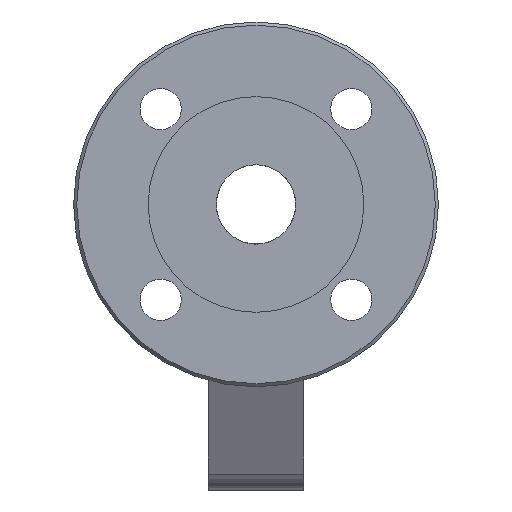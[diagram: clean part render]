
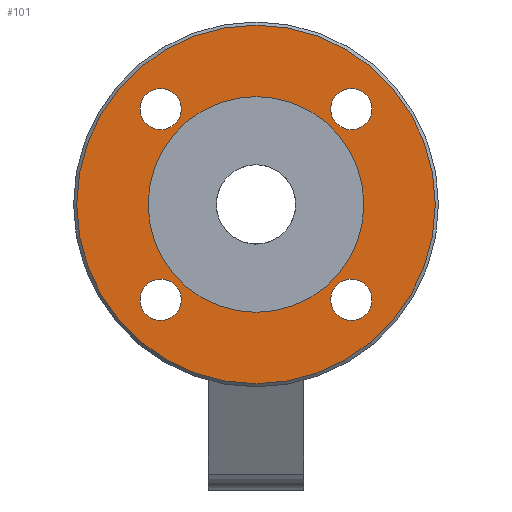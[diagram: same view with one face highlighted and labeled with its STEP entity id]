
A CAD part, left-side view. The second image highlights one B-rep face of the part: STEP entity #101.
In plain terms, the highlighted planar face has unit normal (-1, 0, 0).
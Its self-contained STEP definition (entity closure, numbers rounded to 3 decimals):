
#101=ADVANCED_FACE('',(#817,#819,#821,#823,#825,#827),#829,.T.);
#817=FACE_BOUND('',#818,.T.);
#818=EDGE_LOOP('',(#1903));
#819=FACE_BOUND('',#820,.T.);
#820=EDGE_LOOP('',(#1904));
#821=FACE_BOUND('',#822,.T.);
#822=EDGE_LOOP('',(#1905));
#823=FACE_BOUND('',#824,.T.);
#824=EDGE_LOOP('',(#1906));
#825=FACE_BOUND('',#826,.T.);
#826=EDGE_LOOP('',(#1907));
#827=FACE_OUTER_BOUND('',#828,.T.);
#828=EDGE_LOOP('',(#1908));
#829=PLANE('',#830);
#830=AXIS2_PLACEMENT_3D('',#831,#832,#833);
#831=CARTESIAN_POINT('',(-60.5,0.,0.));
#832=DIRECTION('',(-1.,0.,0.));
#833=DIRECTION('',(0.,1.,0.));
#1903=ORIENTED_EDGE('',*,*,#2985,.T.);
#1904=ORIENTED_EDGE('',*,*,#2986,.T.);
#1905=ORIENTED_EDGE('',*,*,#2987,.T.);
#1906=ORIENTED_EDGE('',*,*,#2988,.T.);
#1907=ORIENTED_EDGE('',*,*,#2977,.T.);
#1908=ORIENTED_EDGE('',*,*,#2989,.F.);
#2977=EDGE_CURVE('',#3255,#3255,#3256,.T.);
#2985=EDGE_CURVE('',#3268,#3268,#3269,.F.);
#2986=EDGE_CURVE('',#3270,#3270,#3271,.F.);
#2987=EDGE_CURVE('',#3272,#3272,#3273,.F.);
#2988=EDGE_CURVE('',#3274,#3274,#3275,.F.);
#2989=EDGE_CURVE('',#3276,#3276,#3277,.T.);
#3255=VERTEX_POINT('',#3708);
#3256=CIRCLE('',#3709,34.);
#3268=VERTEX_POINT('',#3743);
#3269=CIRCLE('',#3744,6.5);
#3270=VERTEX_POINT('',#3748);
#3271=CIRCLE('',#3749,6.5);
#3272=VERTEX_POINT('',#3753);
#3273=CIRCLE('',#3754,6.5);
#3274=VERTEX_POINT('',#3758);
#3275=CIRCLE('',#3759,6.5);
#3276=VERTEX_POINT('',#3763);
#3277=CIRCLE('',#3764,56.5);
#3708=CARTESIAN_POINT('',(-60.5,34.,0.));
#3709=AXIS2_PLACEMENT_3D('',#3710,#3711,#3712);
#3710=CARTESIAN_POINT('',(-60.5,0.,0.));
#3711=DIRECTION('',(1.,-0.,-0.));
#3712=DIRECTION('',(0.,1.,0.));
#3743=CARTESIAN_POINT('',(-60.5,-30.052,-36.552));
#3744=AXIS2_PLACEMENT_3D('',#3745,#3746,#3747);
#3745=CARTESIAN_POINT('',(-60.5,-30.052,-30.052));
#3746=DIRECTION('',(-1.,0.,0.));
#3747=DIRECTION('',(0.,0.,-1.));
#3748=CARTESIAN_POINT('',(-60.5,-36.552,30.052));
#3749=AXIS2_PLACEMENT_3D('',#3750,#3751,#3752);
#3750=CARTESIAN_POINT('',(-60.5,-30.052,30.052));
#3751=DIRECTION('',(-1.,0.,0.));
#3752=DIRECTION('',(0.,-1.,-0.));
#3753=CARTESIAN_POINT('',(-60.5,30.052,36.552));
#3754=AXIS2_PLACEMENT_3D('',#3755,#3756,#3757);
#3755=CARTESIAN_POINT('',(-60.5,30.052,30.052));
#3756=DIRECTION('',(-1.,0.,0.));
#3757=DIRECTION('',(0.,0.,1.));
#3758=CARTESIAN_POINT('',(-60.5,36.552,-30.052));
#3759=AXIS2_PLACEMENT_3D('',#3760,#3761,#3762);
#3760=CARTESIAN_POINT('',(-60.5,30.052,-30.052));
#3761=DIRECTION('',(-1.,0.,0.));
#3762=DIRECTION('',(0.,1.,0.));
#3763=CARTESIAN_POINT('',(-60.5,56.5,0.));
#3764=AXIS2_PLACEMENT_3D('',#3765,#3766,#3767);
#3765=CARTESIAN_POINT('',(-60.5,0.,0.));
#3766=DIRECTION('',(1.,-0.,-0.));
#3767=DIRECTION('',(0.,1.,0.));
